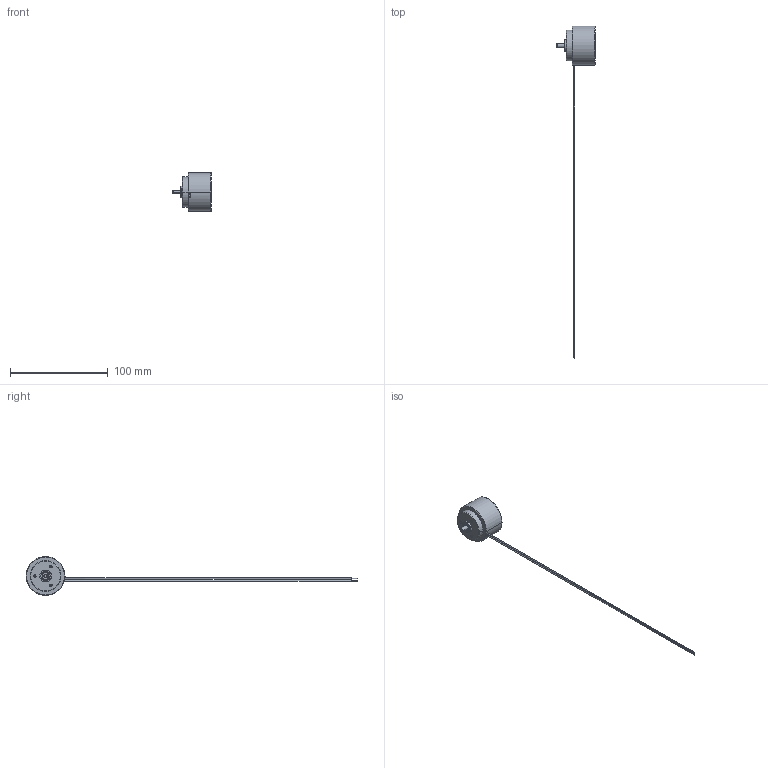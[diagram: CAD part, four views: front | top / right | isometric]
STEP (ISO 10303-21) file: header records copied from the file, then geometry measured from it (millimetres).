
FILE_DESCRIPTION((''),'2;1');
FILE_NAME('1009736','2016-10-10T',('mmagpetk'),(''),'CREO PARAMETRIC BY PTC INC, 2016050','CREO PARAMETRIC BY PTC INC, 2016050','');
FILE_SCHEMA(('CONFIG_CONTROL_DESIGN'));
Length unit declared in the file: millimetre
Products named in the file (1): 1009736
Bounding box: 39.5 x 340 x 40 mm (x, y, z)
Volume: 35266.6 mm3; surface area: 8656.9 mm2
Topology: 1 solids, 1 shells, 51 faces, 106 edges, 63 vertices
Faces by surface type: cylinder 26, plane 11, torus 8, cone 6
Entity records: 1470 total; most frequent: DIRECTION 262, CARTESIAN_POINT 258, ORIENTED_EDGE 200, AXIS2_PLACEMENT_3D 115, EDGE_CURVE 100, CIRCLE 64, VERTEX_POINT 63, EDGE_LOOP 63
